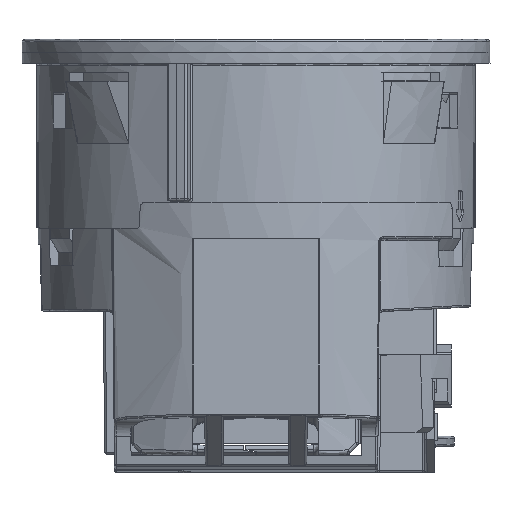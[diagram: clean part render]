
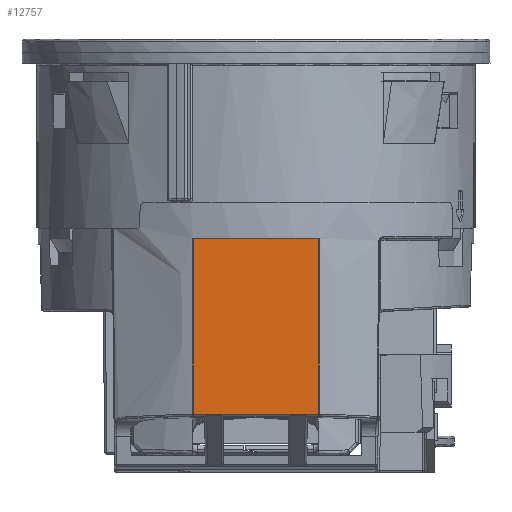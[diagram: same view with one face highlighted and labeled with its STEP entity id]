
A CAD part, front view. The second image highlights one B-rep face of the part: STEP entity #12757.
In plain terms, the highlighted planar face has unit normal (0, 1, 0.009).
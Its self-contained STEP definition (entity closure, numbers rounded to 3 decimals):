
#12757 = ADVANCED_FACE ( 'NONE', ( #52997 ), #65461, .T. ) ;
#15525 = CARTESIAN_POINT ( 'NONE',  ( -6.015, -21.098, -27.999 ) ) ;
#17227 = EDGE_LOOP ( 'NONE', ( #99512, #142676, #53768, #43021 ) ) ;
#25575 = CARTESIAN_POINT ( 'NONE',  ( 63.917, -21.049, -33.599 ) ) ;
#27269 = CARTESIAN_POINT ( 'NONE',  ( -6.028, -21.195, -16.8 ) ) ;
#28455 = B_SPLINE_CURVE_WITH_KNOTS ( 'NONE', 3,
 ( #86979, #66328, #122922, #67055 ),
 .UNSPECIFIED., .F., .F.,
 ( 4, 4 ),
 ( 0., 1. ),
 .UNSPECIFIED. ) ;
#29452 = VECTOR ( 'NONE', #57618, 1000. ) ;
#30971 = AXIS2_PLACEMENT_3D ( 'NONE', #120602, #108888, #134533 ) ;
#38203 = VECTOR ( 'NONE', #124835, 1000. ) ;
#43021 = ORIENTED_EDGE ( 'NONE', *, *, #133302, .T. ) ;
#44301 = CARTESIAN_POINT ( 'NONE',  ( -6.028, -21.195, -16.8 ) ) ;
#45473 = VERTEX_POINT ( 'NONE', #44301 ) ;
#49297 = VERTEX_POINT ( 'NONE', #102666 ) ;
#52997 = FACE_OUTER_BOUND ( 'NONE', #17227, .T. ) ;
#52999 = EDGE_CURVE ( 'NONE', #45473, #49297, #55477, .T. ) ;
#53768 = ORIENTED_EDGE ( 'NONE', *, *, #69167, .T. ) ;
#55477 = LINE ( 'NONE', #135576, #29452 ) ;
#57618 = DIRECTION ( 'NONE',  ( 1., 0., 0. ) ) ;
#65461 = PLANE ( 'NONE',  #30971 ) ;
#66328 = CARTESIAN_POINT ( 'NONE',  ( 6.021, -21.147, -22.4 ) ) ;
#67055 = CARTESIAN_POINT ( 'NONE',  ( 6.008, -21.049, -33.599 ) ) ;
#69167 = EDGE_CURVE ( 'NONE', #119329, #90331, #80041, .T. ) ;
#80041 = LINE ( 'NONE', #25575, #38203 ) ;
#86979 = CARTESIAN_POINT ( 'NONE',  ( 6.028, -21.195, -16.8 ) ) ;
#90331 = VERTEX_POINT ( 'NONE', #140438 ) ;
#99512 = ORIENTED_EDGE ( 'NONE', *, *, #52999, .T. ) ;
#102666 = CARTESIAN_POINT ( 'NONE',  ( 6.028, -21.195, -16.8 ) ) ;
#108888 = DIRECTION ( 'NONE',  ( 0., 1., 0.009 ) ) ;
#116229 = CARTESIAN_POINT ( 'NONE',  ( -6.008, -21.049, -33.599 ) ) ;
#119329 = VERTEX_POINT ( 'NONE', #119639 ) ;
#119639 = CARTESIAN_POINT ( 'NONE',  ( 6.008, -21.049, -33.599 ) ) ;
#120602 = CARTESIAN_POINT ( 'NONE',  ( 0., -21., -39.2 ) ) ;
#120986 = EDGE_CURVE ( 'NONE', #49297, #119329, #28455, .T. ) ;
#121574 = B_SPLINE_CURVE_WITH_KNOTS ( 'NONE', 3,
 ( #116229, #15525, #137571, #27269 ),
 .UNSPECIFIED., .F., .F.,
 ( 4, 4 ),
 ( 0., 1. ),
 .UNSPECIFIED. ) ;
#122922 = CARTESIAN_POINT ( 'NONE',  ( 6.015, -21.098, -27.999 ) ) ;
#124835 = DIRECTION ( 'NONE',  ( -1., 0., 0. ) ) ;
#133302 = EDGE_CURVE ( 'NONE', #90331, #45473, #121574, .T. ) ;
#134533 = DIRECTION ( 'NONE',  ( 0., -0.009, 1. ) ) ;
#135576 = CARTESIAN_POINT ( 'NONE',  ( 0., -21.195, -16.8 ) ) ;
#137571 = CARTESIAN_POINT ( 'NONE',  ( -6.021, -21.147, -22.4 ) ) ;
#140438 = CARTESIAN_POINT ( 'NONE',  ( -6.008, -21.049, -33.599 ) ) ;
#142676 = ORIENTED_EDGE ( 'NONE', *, *, #120986, .T. ) ;
